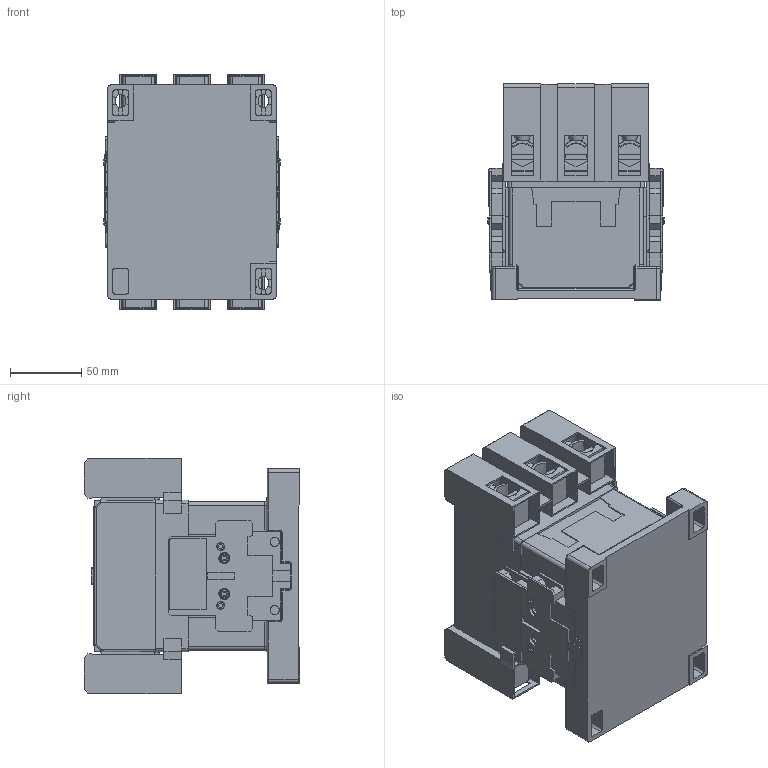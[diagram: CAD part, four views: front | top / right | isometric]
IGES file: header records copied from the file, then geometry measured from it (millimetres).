
Start section: SolidWorks IGES file using analytic representation for surfaces
Global section: file name: Q:\GROUPS\BR_SC_JGS_WA_TECNICO\ENG\Usuarios\Rodrigob\conversão\contatores\Produto\CWM112+TB150\CWM112+TB150.IGS; native system: SolidWorks 2012; preprocessor: SolidWorks 2012; author: rodrigob; date: 130903.134927; units: millimetre
Bounding box: 124.2 x 151.07 x 165.12 mm (x, y, z)
Surface area: 337930.8 mm2 (no closed solid volume)
Topology: 0 solids, 0 shells, 2565 faces, 26467 edges, 26453 vertices
Faces by surface type: bspline 1711, revolution 854
